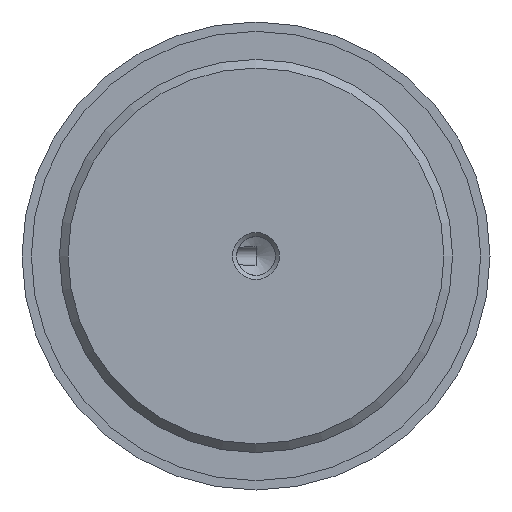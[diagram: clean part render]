
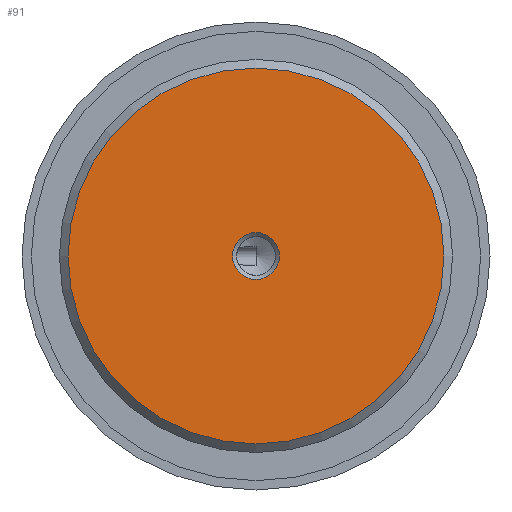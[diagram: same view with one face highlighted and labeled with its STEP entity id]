
A CAD part, front view. The second image highlights one B-rep face of the part: STEP entity #91.
In plain terms, the highlighted planar face has unit normal (0, -1, 0).
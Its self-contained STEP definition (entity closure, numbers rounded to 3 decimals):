
#91 = ADVANCED_FACE( '', ( #171, #172 ), #173, .F. );
#171 = FACE_BOUND( '', #294, .T. );
#172 = FACE_OUTER_BOUND( '', #295, .T. );
#173 = PLANE( '', #296 );
#294 = EDGE_LOOP( '', ( #479 ) );
#295 = EDGE_LOOP( '', ( #480 ) );
#296 = AXIS2_PLACEMENT_3D( '', #481, #482, #483 );
#479 = ORIENTED_EDGE( '', *, *, #791, .F. );
#480 = ORIENTED_EDGE( '', *, *, #822, .T. );
#481 = CARTESIAN_POINT( '', ( 20.08, 0., 0. ) );
#482 = DIRECTION( '', ( 0., 1., 0. ) );
#483 = DIRECTION( '', ( 0., 0., 1. ) );
#791 = EDGE_CURVE( '', #920, #920, #921, .T. );
#822 = EDGE_CURVE( '', #976, #976, #977, .T. );
#920 = VERTEX_POINT( '', #1154 );
#921 = CIRCLE( '', #1155, 2.5 );
#976 = VERTEX_POINT( '', #1297 );
#977 = CIRCLE( '', #1298, 20.08 );
#1154 = CARTESIAN_POINT( '', ( 2.5, 0., 0. ) );
#1155 = AXIS2_PLACEMENT_3D( '', #1541, #1542, #1543 );
#1297 = CARTESIAN_POINT( '', ( 0., 0., -20.08 ) );
#1298 = AXIS2_PLACEMENT_3D( '', #1578, #1579, #1580 );
#1541 = CARTESIAN_POINT( '', ( 0., 0., 0. ) );
#1542 = DIRECTION( '', ( 0., -1., 0. ) );
#1543 = DIRECTION( '', ( 1., 0., 0. ) );
#1578 = CARTESIAN_POINT( '', ( 0., 0., 0. ) );
#1579 = DIRECTION( '', ( 0., -1., 0. ) );
#1580 = DIRECTION( '', ( 0., 0., -1. ) );
